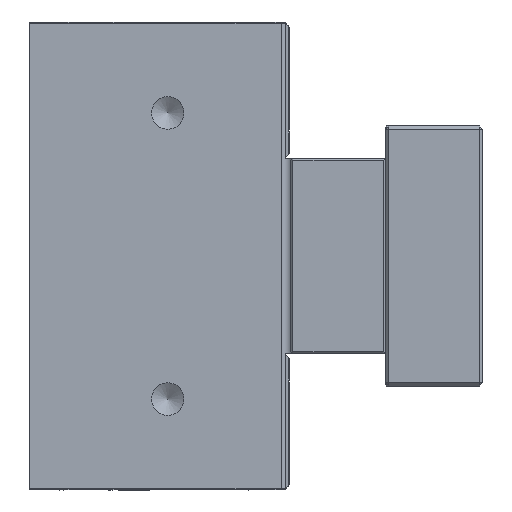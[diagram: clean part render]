
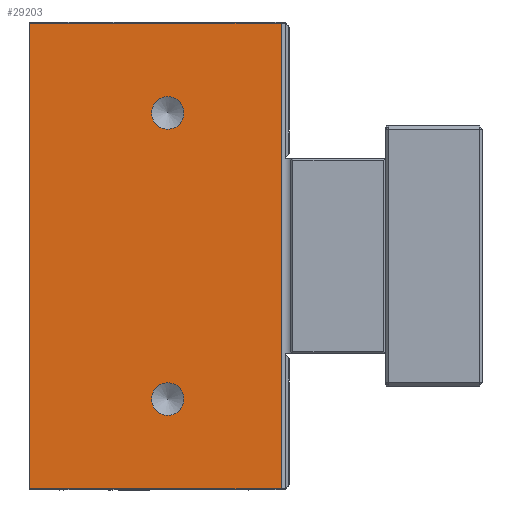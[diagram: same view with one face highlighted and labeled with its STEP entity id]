
A CAD part, left-side view. The second image highlights one B-rep face of the part: STEP entity #29203.
In plain terms, the highlighted planar face has unit normal (-1, 0, 0) as drawn and (1, 0, 0) by its records, which use the part's own axes.
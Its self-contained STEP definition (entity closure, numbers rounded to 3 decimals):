
#38 = ORIENTED_EDGE ( 'NONE', *, *, #55444, .F. ) ;
#50 = CARTESIAN_POINT ( 'NONE',  ( 0., 22., 15.55 ) ) ;
#4550 = VERTEX_POINT ( 'NONE', #49563 ) ;
#4990 = ORIENTED_EDGE ( 'NONE', *, *, #9523, .F. ) ;
#5225 = CARTESIAN_POINT ( 'NONE',  ( 0., -22., 18.05 ) ) ;
#6106 = DIRECTION ( 'NONE',  ( 1., 0., 0. ) ) ;
#6499 = CIRCLE ( 'NONE', #42208, 2.5 ) ;
#9523 = EDGE_CURVE ( 'NONE', #43798, #43798, #6499, .T. ) ;
#10168 = EDGE_CURVE ( 'NONE', #16343, #20469, #25918, .T. ) ;
#11193 = AXIS2_PLACEMENT_3D ( 'NONE', #5225, #48626, #53089 ) ;
#11653 = CARTESIAN_POINT ( 'NONE',  ( 0., -35.8, 19.957 ) ) ;
#12986 = ORIENTED_EDGE ( 'NONE', *, *, #57527, .T. ) ;
#13483 = LINE ( 'NONE', #62540, #48710 ) ;
#16343 = VERTEX_POINT ( 'NONE', #39153 ) ;
#16439 = DIRECTION ( 'NONE',  ( 1., 0., 0. ) ) ;
#16756 = VECTOR ( 'NONE', #30998, 1000. ) ;
#18160 = EDGE_CURVE ( 'NONE', #32867, #16343, #13483, .T. ) ;
#20469 = VERTEX_POINT ( 'NONE', #48011 ) ;
#21199 = EDGE_LOOP ( 'NONE', ( #4990 ) ) ;
#25060 = CARTESIAN_POINT ( 'NONE',  ( 0., -35.8, 0.614 ) ) ;
#25704 = FACE_BOUND ( 'NONE', #21199, .T. ) ;
#25918 = LINE ( 'NONE', #41542, #16756 ) ;
#28133 = DIRECTION ( 'NONE',  ( 0., 0., 1. ) ) ;
#29203 = ADVANCED_FACE ( 'NONE', ( #50548, #25704, #40046 ), #30162, .T. ) ;
#30066 = EDGE_LOOP ( 'NONE', ( #34330, #46787, #12986, #61047 ) ) ;
#30162 = PLANE ( 'NONE',  #55448 ) ;
#30676 = CARTESIAN_POINT ( 'NONE',  ( 0., 22., 18.05 ) ) ;
#30998 = DIRECTION ( 'NONE',  ( 0., 1., 0. ) ) ;
#31097 = DIRECTION ( 'NONE',  ( 0., 0., -1. ) ) ;
#32543 = VERTEX_POINT ( 'NONE', #61557 ) ;
#32867 = VERTEX_POINT ( 'NONE', #36032 ) ;
#33689 = LINE ( 'NONE', #25060, #36596 ) ;
#34330 = ORIENTED_EDGE ( 'NONE', *, *, #10168, .F. ) ;
#35822 = CARTESIAN_POINT ( 'NONE',  ( 0., 35.8, 0.614 ) ) ;
#36032 = CARTESIAN_POINT ( 'NONE',  ( 0., -35.8, 0.614 ) ) ;
#36596 = VECTOR ( 'NONE', #62994, 1000. ) ;
#39153 = CARTESIAN_POINT ( 'NONE',  ( 0., -35.8, 39.3 ) ) ;
#40046 = FACE_OUTER_BOUND ( 'NONE', #30066, .T. ) ;
#41542 = CARTESIAN_POINT ( 'NONE',  ( 0., -35.8, 39.3 ) ) ;
#42208 = AXIS2_PLACEMENT_3D ( 'NONE', #30676, #6106, #50139 ) ;
#43699 = EDGE_LOOP ( 'NONE', ( #38 ) ) ;
#43798 = VERTEX_POINT ( 'NONE', #50 ) ;
#46787 = ORIENTED_EDGE ( 'NONE', *, *, #18160, .F. ) ;
#47091 = VECTOR ( 'NONE', #55268, 1000. ) ;
#48011 = CARTESIAN_POINT ( 'NONE',  ( 0., 35.8, 39.3 ) ) ;
#48626 = DIRECTION ( 'NONE',  ( 1., 0., 0. ) ) ;
#48710 = VECTOR ( 'NONE', #28133, 1000. ) ;
#49563 = CARTESIAN_POINT ( 'NONE',  ( 0., 35.8, 0.614 ) ) ;
#50139 = DIRECTION ( 'NONE',  ( 0., 0., -1. ) ) ;
#50548 = FACE_BOUND ( 'NONE', #43699, .T. ) ;
#53089 = DIRECTION ( 'NONE',  ( 0., 0., -1. ) ) ;
#55268 = DIRECTION ( 'NONE',  ( 0., 0., -1. ) ) ;
#55444 = EDGE_CURVE ( 'NONE', #32543, #32543, #62123, .T. ) ;
#55448 = AXIS2_PLACEMENT_3D ( 'NONE', #11653, #16439, #31097 ) ;
#57527 = EDGE_CURVE ( 'NONE', #32867, #4550, #33689, .T. ) ;
#60019 = LINE ( 'NONE', #35822, #47091 ) ;
#61047 = ORIENTED_EDGE ( 'NONE', *, *, #62255, .F. ) ;
#61557 = CARTESIAN_POINT ( 'NONE',  ( 0., -22., 15.55 ) ) ;
#62123 = CIRCLE ( 'NONE', #11193, 2.5 ) ;
#62255 = EDGE_CURVE ( 'NONE', #20469, #4550, #60019, .T. ) ;
#62540 = CARTESIAN_POINT ( 'NONE',  ( 0., -35.8, 39.3 ) ) ;
#62994 = DIRECTION ( 'NONE',  ( 0., 1., 0. ) ) ;
